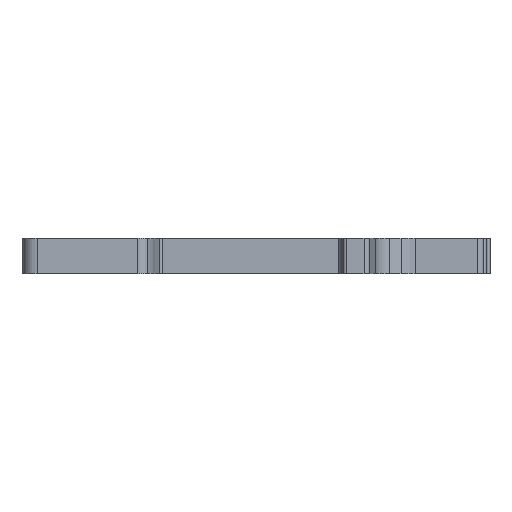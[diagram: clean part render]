
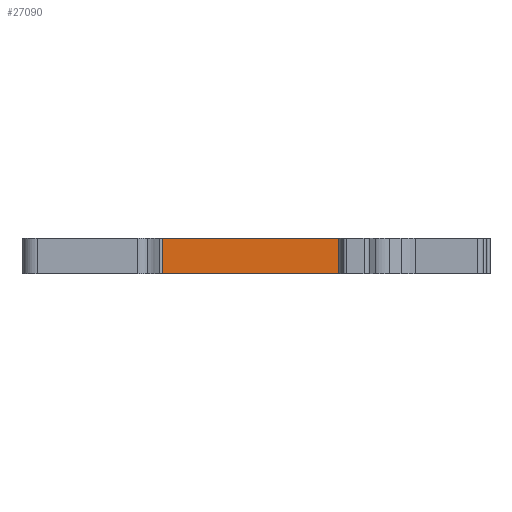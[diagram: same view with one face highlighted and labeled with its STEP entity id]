
A CAD part, front view. The second image highlights one B-rep face of the part: STEP entity #27090.
In plain terms, the highlighted planar face has unit normal (0, -1, 0).
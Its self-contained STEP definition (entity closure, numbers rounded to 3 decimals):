
#26570=CARTESIAN_POINT('',(-14.8,0.,0.));
#26580=VERTEX_POINT('',#26570);
#26610=CARTESIAN_POINT('',(-14.8,0.,0.));
#26620=DIRECTION('',(0.,0.,-1.));
#26630=VECTOR('',#26620,1.);
#26640=LINE('',#26610,#26630);
#26650=CARTESIAN_POINT('',(-14.8,0.,-6.2)
);
#26660=VERTEX_POINT('',#26650);
#26670=EDGE_CURVE('',#26580,#26660,#26640,.T.);
#26790=CARTESIAN_POINT('',(17.5,0.,0.));
#26800=DIRECTION('',(-0.,1.,0.));
#26810=DIRECTION('',(1.,0.,0.));
#26820=AXIS2_PLACEMENT_3D('',#26790,#26800,#26810);
#26830=PLANE('',#26820);
#26840=CARTESIAN_POINT('',(-8.162,0.,0.));
#26850=DIRECTION('',(1.,0.,0.));
#26860=VECTOR('',#26850,1.);
#26870=LINE('',#26840,#26860);
#26880=CARTESIAN_POINT('',(17.5,0.,0.));
#26890=VERTEX_POINT('',#26880);
#26900=EDGE_CURVE('',#26580,#26890,#26870,.T.);
#26910=ORIENTED_EDGE('',*,*,#26900,.F.);
#26920=CARTESIAN_POINT('',(17.5,0.,0.));
#26930=DIRECTION('',(0.,0.,-1.));
#26940=VECTOR('',#26930,1.);
#26950=LINE('',#26920,#26940);
#26960=CARTESIAN_POINT('',(17.5,0.,-6.2));
#26970=VERTEX_POINT('',#26960);
#26980=EDGE_CURVE('',#26890,#26970,#26950,.T.);
#26990=ORIENTED_EDGE('',*,*,#26980,.F.);
#27000=CARTESIAN_POINT('',(-8.162,0.,-6.2)
);
#27010=DIRECTION('',(1.,0.,0.));
#27020=VECTOR('',#27010,1.);
#27030=LINE('',#27000,#27020);
#27040=EDGE_CURVE('',#26660,#26970,#27030,.T.);
#27050=ORIENTED_EDGE('',*,*,#27040,.T.);
#27060=ORIENTED_EDGE('',*,*,#26670,.T.);
#27070=EDGE_LOOP('',(#27060,#27050,#26990,#26910));
#27080=FACE_OUTER_BOUND('',#27070,.T.);
#27090=ADVANCED_FACE('',(#27080),#26830,.F.);
